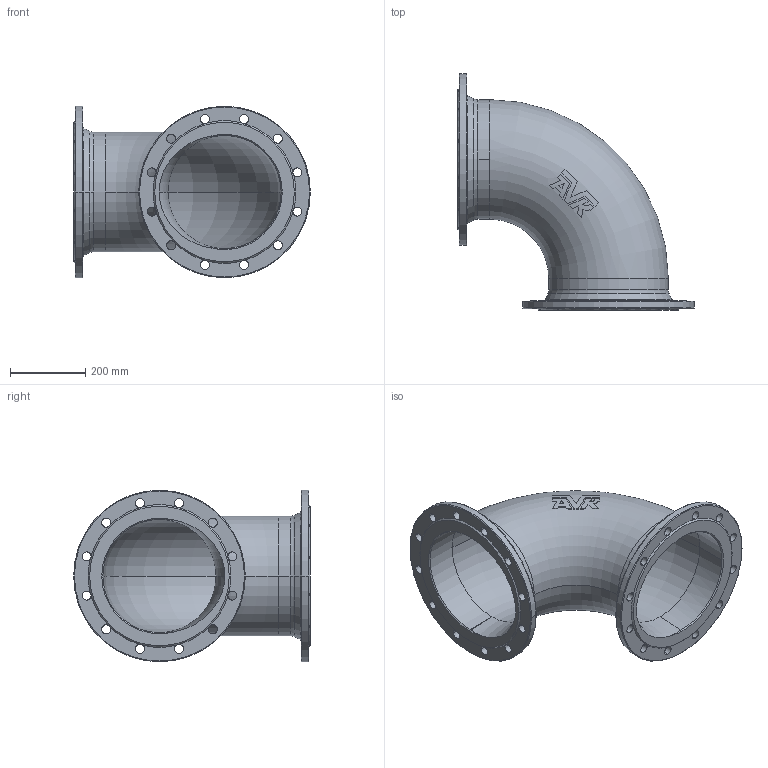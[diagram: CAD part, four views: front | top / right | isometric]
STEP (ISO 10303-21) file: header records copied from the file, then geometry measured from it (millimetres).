
FILE_DESCRIPTION (( 'STEP AP203' ), '1' );
FILE_NAME ('O_712_0610_DN300_0X_REV01.step', '2021-11-19T10:13:36', ( '' ), ( '' ), 'SwSTEP 2.0', 'SolidWorks 2019', '' );
FILE_SCHEMA (( 'CONFIG_CONTROL_DESIGN' ));
Length unit declared in the file: millimetre
Products named in the file (1): O_712_0610_DN300_0X_REV01
Bounding box: 627.5 x 627.5 x 455 mm (x, y, z)
Volume: 8877392.4 mm3; surface area: 1637473.6 mm2
Topology: 1 solids, 1 shells, 145 faces, 449 edges, 290 vertices
Faces by surface type: cylinder 63, plane 41, torus 28, cone 13
Entity records: 5917 total; most frequent: CARTESIAN_POINT 1790, ORIENTED_EDGE 898, DIRECTION 839, EDGE_CURVE 449, AXIS2_PLACEMENT_3D 366, VERTEX_POINT 290, CIRCLE 220, EDGE_LOOP 179
